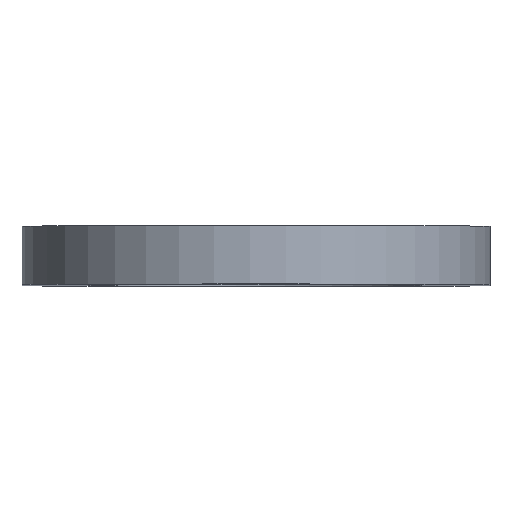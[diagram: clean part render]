
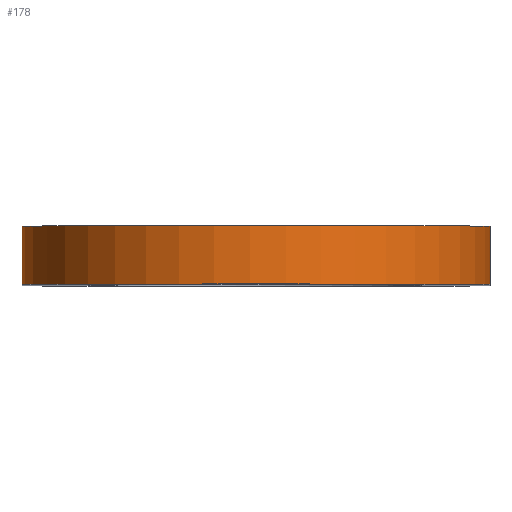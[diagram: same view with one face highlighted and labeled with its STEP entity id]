
A CAD part, top view. The second image highlights one B-rep face of the part: STEP entity #178.
In plain terms, the highlighted free-form (B-spline) face has degree [3, 1] with [21, 2] control points.
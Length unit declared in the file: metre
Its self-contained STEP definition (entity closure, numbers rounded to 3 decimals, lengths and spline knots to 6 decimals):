
#14=ELLIPSE('',#202,0.045185,0.040165);
#15=ELLIPSE('',#203,0.045185,0.040165);
#21=B_SPLINE_SURFACE_WITH_KNOTS('',3,1,((#327,#328),(#329,#330),(#331,#332),
(#333,#334),(#335,#336),(#337,#338),(#339,#340),(#341,#342),(#343,#344),
(#345,#346),(#347,#348),(#349,#350),(#351,#352),(#353,#354),(#355,#356),
(#357,#358),(#359,#360),(#361,#362),(#363,#364),(#365,#366),(#367,#368)),
 .SURF_OF_LINEAR_EXTRUSION.,.F.,.F.,.F.,(4,1,1,1,1,1,1,1,1,1,1,1,1,1,1,
1,1,1,4),(2,2),(0.75,0.781121,0.812243,0.843364,
0.874486,0.905607,0.936729,0.96785,
0.983411,0.998972,1.014532,1.030093,1.061215,
1.092336,1.123458,1.154579,1.1857,1.216822,
1.247943),(0.,1.),.UNSPECIFIED.);
#40=ORIENTED_EDGE('',*,*,#86,.F.);
#41=ORIENTED_EDGE('',*,*,#87,.F.);
#42=ORIENTED_EDGE('',*,*,#88,.T.);
#43=ORIENTED_EDGE('',*,*,#83,.T.);
#83=EDGE_CURVE('',#106,#104,#121,.T.);
#86=EDGE_CURVE('',#108,#104,#14,.T.);
#87=EDGE_CURVE('',#109,#108,#124,.T.);
#88=EDGE_CURVE('',#109,#106,#15,.T.);
#104=VERTEX_POINT('',#320);
#106=VERTEX_POINT('',#323);
#108=VERTEX_POINT('',#370);
#109=VERTEX_POINT('',#372);
#121=LINE('',#322,#137);
#124=LINE('',#371,#140);
#137=VECTOR('',#232,1.);
#140=VECTOR('',#237,1.);
#148=EDGE_LOOP('',(#40,#41,#42,#43));
#160=FACE_BOUND('',#148,.T.);
#178=ADVANCED_FACE('',(#160),#21,.T.);
#202=AXIS2_PLACEMENT_3D('',#369,#235,#236);
#203=AXIS2_PLACEMENT_3D('',#373,#238,#239);
#232=DIRECTION('',(0.,1.,0.));
#235=DIRECTION('',(0.,1.,0.));
#236=DIRECTION('',(0.,0.,1.));
#237=DIRECTION('',(0.,1.,0.));
#238=DIRECTION('',(0.,1.,0.));
#239=DIRECTION('',(0.,0.,1.));
#320=CARTESIAN_POINT('',(-0.035636,0.0088,0.054592));
#322=CARTESIAN_POINT('',(-0.035636,-0.0012,0.054592));
#323=CARTESIAN_POINT('',(-0.035636,-0.0012,0.054592));
#327=CARTESIAN_POINT('',(-0.11596,-0.0012,0.053848));
#328=CARTESIAN_POINT('',(-0.11596,0.0088,0.053848));
#329=CARTESIAN_POINT('',(-0.11596,-0.0012,0.057598));
#330=CARTESIAN_POINT('',(-0.11596,0.0088,0.057598));
#331=CARTESIAN_POINT('',(-0.115117,-0.0012,0.065096));
#332=CARTESIAN_POINT('',(-0.115117,0.0088,0.065096));
#333=CARTESIAN_POINT('',(-0.111555,-0.0012,0.075326));
#334=CARTESIAN_POINT('',(-0.111555,0.0088,0.075326));
#335=CARTESIAN_POINT('',(-0.10629,-0.0012,0.083809));
#336=CARTESIAN_POINT('',(-0.10629,0.0088,0.083809));
#337=CARTESIAN_POINT('',(-0.100052,-0.0012,0.090239));
#338=CARTESIAN_POINT('',(-0.100052,0.0088,0.090239));
#339=CARTESIAN_POINT('',(-0.093501,-0.0012,0.094676));
#340=CARTESIAN_POINT('',(-0.093501,0.0088,0.094676));
#341=CARTESIAN_POINT('',(-0.087117,-0.0012,0.097401));
#342=CARTESIAN_POINT('',(-0.087117,0.0088,0.097401));
#343=CARTESIAN_POINT('',(-0.082182,-0.0012,0.098547));
#344=CARTESIAN_POINT('',(-0.082182,0.0088,0.098547));
#345=CARTESIAN_POINT('',(-0.078518,-0.0012,0.098963));
#346=CARTESIAN_POINT('',(-0.078518,0.0088,0.098963));
#347=CARTESIAN_POINT('',(-0.075955,-0.0012,0.099062));
#348=CARTESIAN_POINT('',(-0.075955,0.0088,0.099062));
#349=CARTESIAN_POINT('',(-0.073426,-0.0012,0.098987));
#350=CARTESIAN_POINT('',(-0.073426,0.0088,0.098987));
#351=CARTESIAN_POINT('',(-0.069785,-0.0012,0.098611));
#352=CARTESIAN_POINT('',(-0.069785,0.0088,0.098611));
#353=CARTESIAN_POINT('',(-0.064882,-0.0012,0.097529));
#354=CARTESIAN_POINT('',(-0.064882,0.0088,0.097529));
#355=CARTESIAN_POINT('',(-0.05852,-0.0012,0.094905));
#356=CARTESIAN_POINT('',(-0.05852,0.0088,0.094905));
#357=CARTESIAN_POINT('',(-0.051968,-0.0012,0.090592));
#358=CARTESIAN_POINT('',(-0.051968,0.0088,0.090592));
#359=CARTESIAN_POINT('',(-0.045691,-0.0012,0.084299));
#360=CARTESIAN_POINT('',(-0.045691,0.0088,0.084299));
#361=CARTESIAN_POINT('',(-0.040339,-0.0012,0.075946));
#362=CARTESIAN_POINT('',(-0.040339,0.0088,0.075946));
#363=CARTESIAN_POINT('',(-0.036643,-0.0012,0.065813));
#364=CARTESIAN_POINT('',(-0.036643,0.0088,0.065813));
#365=CARTESIAN_POINT('',(-0.035691,-0.0012,0.058341));
#366=CARTESIAN_POINT('',(-0.035691,0.0088,0.058341));
#367=CARTESIAN_POINT('',(-0.035636,-0.0012,0.054592));
#368=CARTESIAN_POINT('',(-0.035636,0.0088,0.054592));
#369=CARTESIAN_POINT('',(-0.075795,0.0088,0.053848));
#370=CARTESIAN_POINT('',(-0.11596,0.0088,0.053848));
#371=CARTESIAN_POINT('',(-0.11596,-0.0012,0.053848));
#372=CARTESIAN_POINT('',(-0.11596,-0.0012,0.053848));
#373=CARTESIAN_POINT('',(-0.075795,-0.0012,0.053848));
